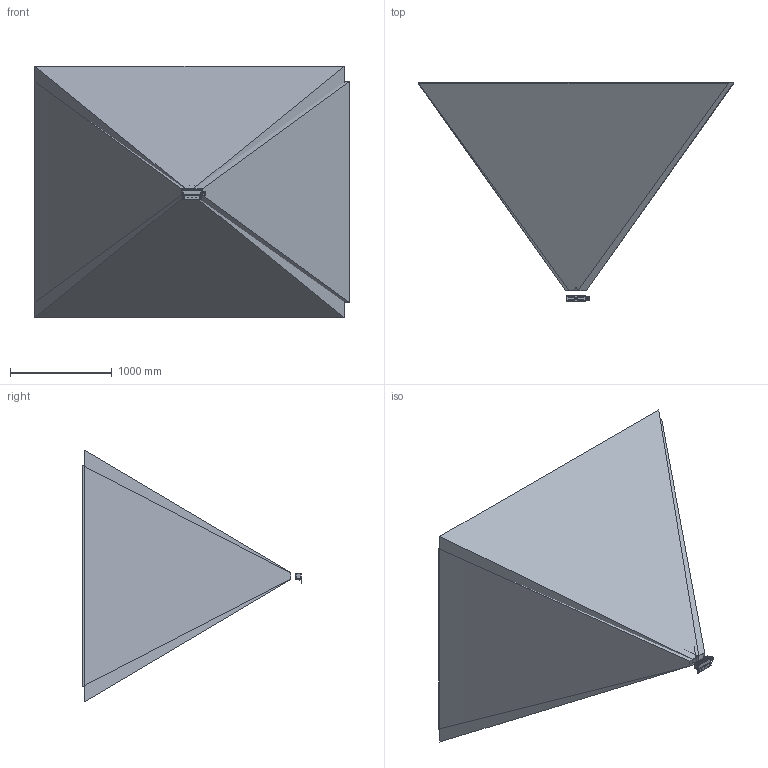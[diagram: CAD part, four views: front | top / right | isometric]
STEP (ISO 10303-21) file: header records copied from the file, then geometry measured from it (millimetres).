
FILE_DESCRIPTION((''),'2;1');
FILE_NAME('PRT0006','2025-11-20T18:25:12',('zouzichao'),(''),'CREO PARAMETRIC BY PTC INC, 2020044','CREO PARAMETRIC BY PTC INC, 2020044','');
FILE_SCHEMA(('AUTOMOTIVE_DESIGN { 1 0 10303 214 1 1 1 1 }'));
Products named in the file (1): PRT0006
Bounding box: 3105.58 x 2150.19 x 2478.76 mm (x, y, z)
Volume: 2848200000 mm3; surface area: 52811307.5 mm2
Topology: 1 solids, 86 shells, 1428 faces, 4587 edges, 3227 vertices
Faces by surface type: plane 795, cylinder 381, cone 133, bspline 72, torus 47
Entity records: 114006 total; most frequent: CARTESIAN_POINT 72135, ORIENTED_EDGE 7961, DIRECTION 7289, EDGE_CURVE 4571, VERTEX_POINT 3227, VECTOR 2677, LINE 2677, AXIS2_PLACEMENT_3D 2306
